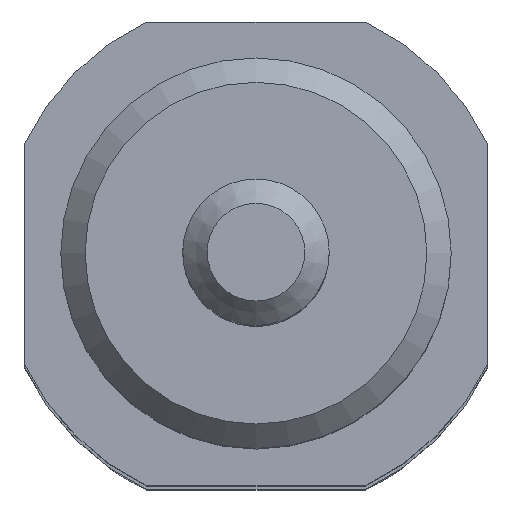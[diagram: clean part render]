
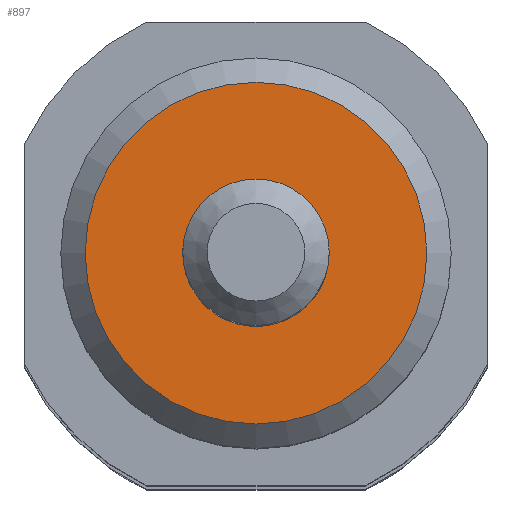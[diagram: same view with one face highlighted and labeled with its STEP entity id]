
A CAD part, top view. The second image highlights one B-rep face of the part: STEP entity #897.
In plain terms, the highlighted planar face has unit normal (0, 0, 1).
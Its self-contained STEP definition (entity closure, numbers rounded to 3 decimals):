
#835=CARTESIAN_POINT('',(7.,0.,133.));
#836=VERTEX_POINT('',#835);
#837=CARTESIAN_POINT('',(0.,0.,133.));
#838=DIRECTION('',(0.0,0.0,-1.0));
#839=DIRECTION('',(-1.0,0.0,0.0));
#840=AXIS2_PLACEMENT_3D('',#837,#838,#839);
#841=CIRCLE('',#840,7.);
#842=EDGE_CURVE('',#836,#836,#841,.T.);
#878=CARTESIAN_POINT('',(0.,0.,133.));
#879=DIRECTION('',(0.0,0.0,-1.0));
#880=DIRECTION('',(-1.0,0.0,0.0));
#881=AXIS2_PLACEMENT_3D('',#878,#879,#880);
#882=PLANE('',#881);
#883=ORIENTED_EDGE('',*,*,#842,.F.);
#884=EDGE_LOOP('',(#883));
#885=FACE_OUTER_BOUND('',#884,.T.);
#886=CARTESIAN_POINT('',(3.,0.,133.));
#887=VERTEX_POINT('',#886);
#888=CARTESIAN_POINT('',(0.,0.,133.));
#889=DIRECTION('',(0.0,0.0,-1.0));
#890=DIRECTION('',(-1.0,0.0,0.0));
#891=AXIS2_PLACEMENT_3D('',#888,#889,#890);
#892=CIRCLE('',#891,3.);
#893=EDGE_CURVE('',#887,#887,#892,.T.);
#894=ORIENTED_EDGE('',*,*,#893,.T.);
#895=EDGE_LOOP('',(#894));
#896=FACE_BOUND('',#895,.T.);
#897=ADVANCED_FACE('',(#885,#896),#882,.F.);
